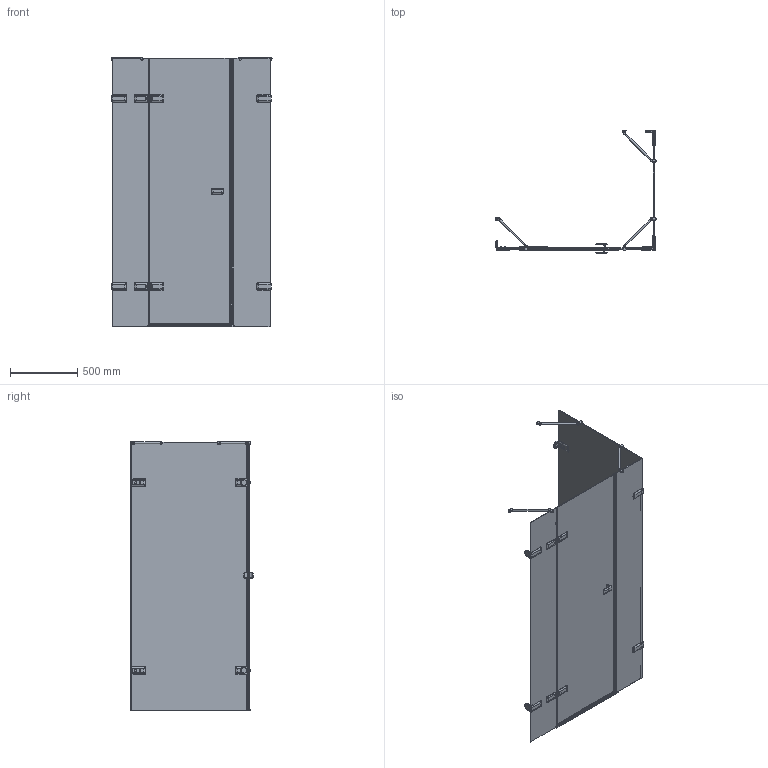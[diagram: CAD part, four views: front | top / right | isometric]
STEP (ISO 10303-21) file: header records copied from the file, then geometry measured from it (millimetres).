
FILE_DESCRIPTION(/* description */ (''),/* implementation_level */ '2;1');
FILE_NAME(/* name */ 'E:\Работа\Сергей\Душевые кабинки\! Работа\++++++++++\TREND RECTAN GK-864B1ONE\TREND RECTAN GK-864B1ONE левая модель\TREND RECTAN GK-864B1ONE ЛЕВАЯ-3D.stp',/* time_stamp */ '2018-02-03T13:01:40+03:00',/* author */ ('PC'),/* organization */ (''),/* preprocessor_version */ 'ST-DEVELOPER v15.2',/* originating_system */ 'Autodesk Inventor 2014',/* authorisation */ '');
FILE_SCHEMA (('AUTOMOTIVE_DESIGN { 1 0 10303 214 3 1 1 }'));
Products named in the file (1): TREND RECTAN GK-864B1ONE ЛЕВАЯ-
3D
Bounding box: 1193.5 x 912.5 x 2009.49 mm (x, y, z)
Volume: 26068280.3 mm3; surface area: 8676055.1 mm2
Topology: 13 solids, 13 shells, 1727 faces, 4471 edges, 2755 vertices
Faces by surface type: plane 990, cylinder 420, bspline 204, torus 64, sphere 25, cone 24
Full cylindrical faces by diameter (mm): 6 x4, 9 x8, 13 x4, 15 x3, 20 x6, 26 x2, 40 x4
Entity records: 74056 total; most frequent: CARTESIAN_POINT 31687, ORIENTED_EDGE 8598, DIRECTION 8111, EDGE_CURVE 4299, AXIS2_PLACEMENT_3D 2743, VERTEX_POINT 2727, LINE 2625, VECTOR 2625
